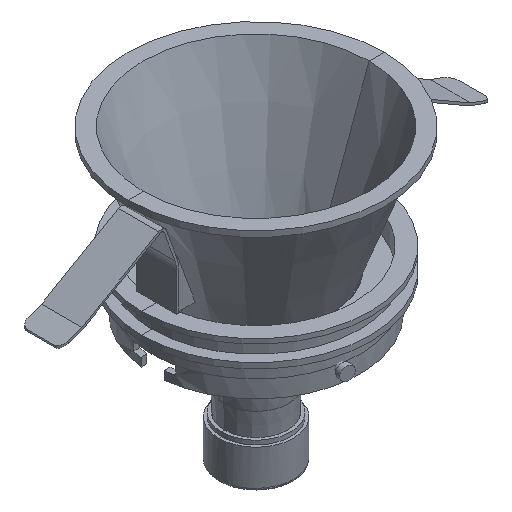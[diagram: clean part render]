
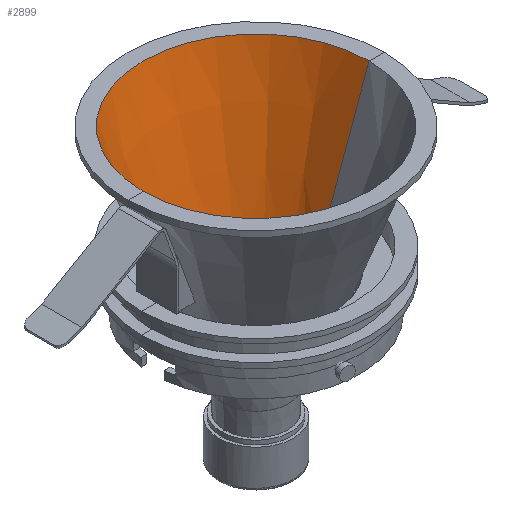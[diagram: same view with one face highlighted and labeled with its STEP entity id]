
A CAD part, isometric view. The second image highlights one B-rep face of the part: STEP entity #2899.
In plain terms, the highlighted conical face has half-angle 20 degrees and reference radius 37.509 mm.
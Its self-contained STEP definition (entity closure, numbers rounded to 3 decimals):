
#45=CONICAL_SURFACE('',#3248,37.509,0.349);
#209=CIRCLE('',#3245,21.803);
#211=CIRCLE('',#3249,39.254);
#477=FACE_OUTER_BOUND('',#663,.T.);
#663=EDGE_LOOP('',(#2592,#2593,#2594,#2595));
#896=LINE('',#5422,#1130);
#897=LINE('',#5425,#1131);
#1130=VECTOR('',#4145,304.8);
#1131=VECTOR('',#4148,304.8);
#1376=VERTEX_POINT('',#5413);
#1377=VERTEX_POINT('',#5415);
#1378=VERTEX_POINT('',#5421);
#1379=VERTEX_POINT('',#5423);
#1781=EDGE_CURVE('',#1376,#1377,#209,.T.);
#1782=EDGE_CURVE('',#1378,#1376,#896,.T.);
#1784=EDGE_CURVE('',#1377,#1379,#897,.T.);
#1785=EDGE_CURVE('',#1378,#1379,#211,.T.);
#2592=ORIENTED_EDGE('',*,*,#1784,.T.);
#2593=ORIENTED_EDGE('',*,*,#1785,.F.);
#2594=ORIENTED_EDGE('',*,*,#1782,.T.);
#2595=ORIENTED_EDGE('',*,*,#1781,.T.);
#2899=ADVANCED_FACE('',(#477),#45,.F.);
#3245=AXIS2_PLACEMENT_3D('',#5419,#4141,#4142);
#3248=AXIS2_PLACEMENT_3D('',#5426,#4149,#4150);
#3249=AXIS2_PLACEMENT_3D('',#5427,#4151,#4152);
#4141=DIRECTION('center_axis',(0.,0.,1.));
#4142=DIRECTION('ref_axis',(-0.809,-0.588,0.));
#4145=DIRECTION('',(0.342,0.,0.94));
#4148=DIRECTION('',(0.342,0.,-0.94));
#4149=DIRECTION('center_axis',(0.,0.,
-1.));
#4150=DIRECTION('ref_axis',(-0.809,-0.588,0.));
#4151=DIRECTION('center_axis',(0.,0.,1.));
#4152=DIRECTION('ref_axis',(-0.809,-0.588,0.));
#5413=CARTESIAN_POINT('',(-21.803,0.,44.945));
#5415=CARTESIAN_POINT('',(21.803,0.,44.945));
#5419=CARTESIAN_POINT('Origin',(0.,0.,
44.945));
#5421=CARTESIAN_POINT('',(-39.254,0.,-3.));
#5422=CARTESIAN_POINT('',(-39.254,0.,-3.));
#5423=CARTESIAN_POINT('',(39.254,0.,-3.));
#5425=CARTESIAN_POINT('',(21.803,0.,44.945));
#5426=CARTESIAN_POINT('Origin',(0.,0.,1.795));
#5427=CARTESIAN_POINT('Origin',(0.,0.,
-3.));
